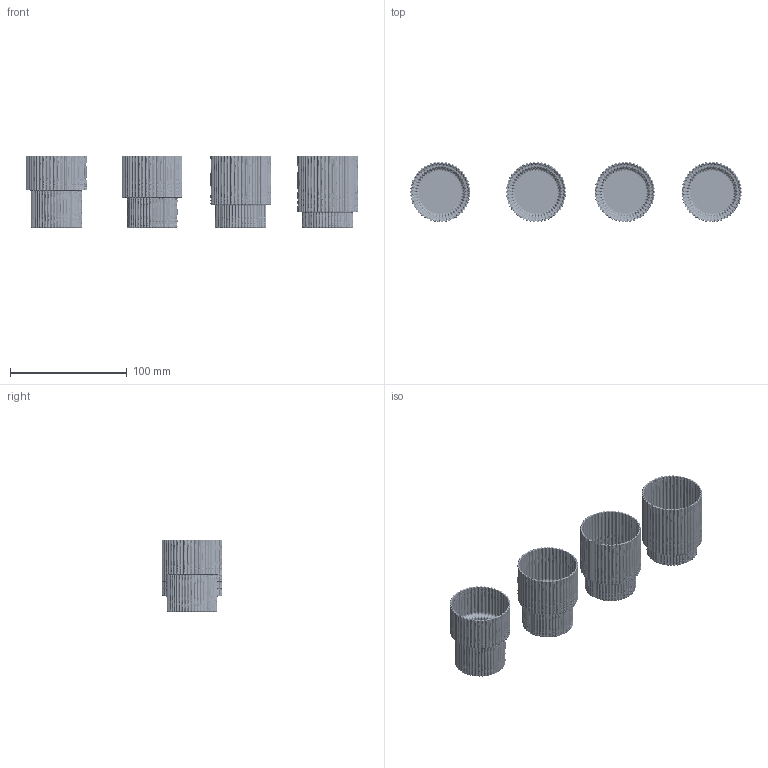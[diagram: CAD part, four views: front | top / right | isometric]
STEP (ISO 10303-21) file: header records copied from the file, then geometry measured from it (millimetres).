
FILE_DESCRIPTION(/* description */ (''),/* implementation_level */ '2;1');
FILE_NAME(/* name */ 'Ripple small glasses - Set of 4_3D',/* time_stamp */ '2023-11-22T10:47:10+01:00',/* author */ (''),/* organization */ (''),/* preprocessor_version */ 'ST-DEVELOPER v16.5',/* originating_system */ 'Rhino 7.34',/* authorisation */ '');
FILE_SCHEMA (('CONFIG_CONTROL_DESIGN'));
Length unit declared in the file: millimetre
Products named in the file (1): Document
Bounding box: 284.85 x 51.9 x 62 mm (x, y, z)
Volume: 43560.6 mm3; surface area: 100569.6 mm2
Topology: 4 solids, 4 shells, 804 faces, 2400 edges, 808 vertices
Faces by surface type: bspline 800, plane 4
Entity records: 103352 total; most frequent: CARTESIAN_POINT 95214, ORIENTED_EDGE 3200, EDGE_CURVE 1600, EDGE_LOOP 808, VERTEX_POINT 808, ADVANCED_FACE 804, FACE_OUTER_BOUND 804, DIRECTION 8
